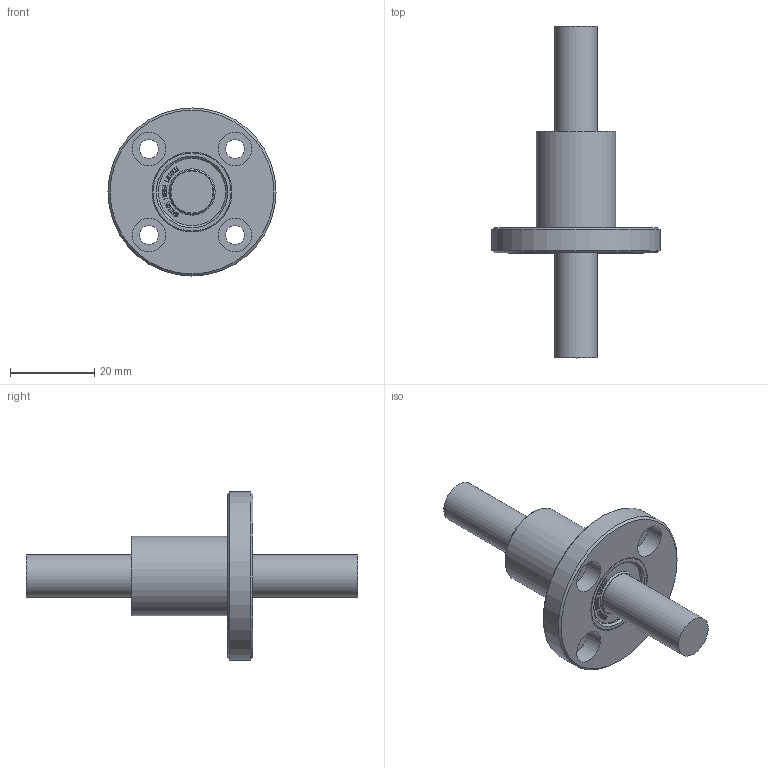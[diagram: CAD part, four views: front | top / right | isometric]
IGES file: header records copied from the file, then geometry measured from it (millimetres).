
Global section: file name: No Iges File Name specified; native system: Autodesk Inventor 2012; preprocessor: AutoDesk Inventor Iges Exporter R2012; author: user2; date: 20130206.160147; units: millimetre
Bounding box: 40 x 79 x 40 mm (x, y, z)
Volume: 16745.7 mm3; surface area: 6677.8 mm2
Topology: 1 solids, 1 shells, 817 faces, 2273 edges, 1514 vertices
Faces by surface type: bspline 568, plane 226, revolution 13, cone 4, cylinder 4, torus 2
Full cylindrical faces by diameter (mm): 10 x2, 19 x1, 40 x1
